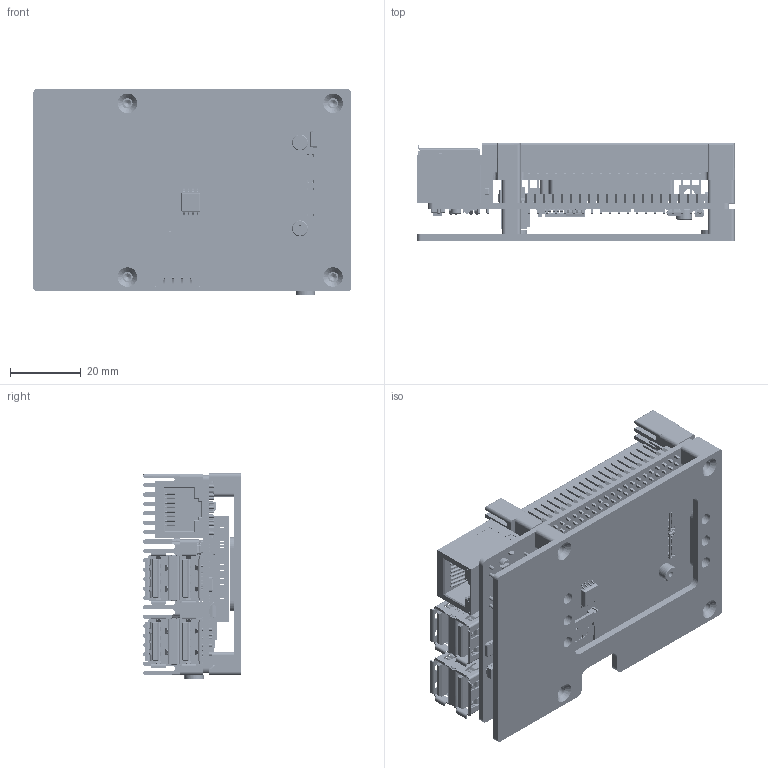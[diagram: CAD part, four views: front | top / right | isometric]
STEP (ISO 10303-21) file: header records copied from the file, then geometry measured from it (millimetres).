
FILE_DESCRIPTION (( 'STEP AP214' ), '1' );
FILE_NAME ('LubanCat 3-俋褲3D恅璃.STEP', '2025-04-15T01:09:14', ( '' ), ( '' ), 'SwSTEP 2.0', 'SolidWorks 2023', '' );
FILE_SCHEMA (( 'AUTOMOTIVE_DESIGN' ));
Length unit declared in the file: millimetre
Products named in the file (35): User Library-USB-TYPE-C20; SMAJ3.3CA; IRM-v838M3 红外贴片; LubanCat 3-外壳3D文件; LubanCat 4-底盖-202306121; FE2.1-CQFP48A; HR911130A; RK3576; Lubancat3板图; 创都1.25T-2A; FPC连接器 针脚数30 间距0.5mm 高度2.0mm 下接 卧贴 翻盖式; USB3.0+2.0卷边座子 零件; MINI_HDMI; SMAJ5.0CA; 0402 3.3uH; 长鑫DRAM; 兼容鲁班猫1,3,4挤铝散热器-20250206; FPC连接器24P 0.5mm立贴; M2x3 台阶外径4.5整体4.5焊接外径3; TLJB227M006R0500; 0402 0.22uH; ZH 2P 插件1.5MM; 0.4mm BTB母座2x15P 双槽 立贴式; 2.54排针3PIN; RK806S-5; TS-1088-AR02016; 2.54mm 2x20P 直插 方针; MINI PCIE插座 引脚数：52P; 0805 47uF; 耳机座子; W25Q64JVSSIQ; eMMC-32G; MICRO SIM+TF卡座二合一; USB2.0双层卷边 零件; Type-C母座 24P USB-3.1
Assembly tree (41 placements, depth 2):
  LubanCat 3-外壳3D文件
    Lubancat3板图
    长鑫DRAM
    eMMC-32G
    FE2.1-CQFP48A
    RK806S-5
    USB2.0双层卷边 零件
    USB3.0+2.0卷边座子 零件
    HR911130A
    2.54mm 2x20P 直插 方针
    User Library-USB-TYPE-C20
    MINI_HDMI
    Type-C母座 24P USB-3.1
    耳机座子
    FPC连接器24P 0.5mm立贴
    ZH 2P 插件1.5MM
    创都1.25T-2A
    IRM-v838M3 红外贴片
    FPC连接器 针脚数30 间距0.5mm 高度2.0mm 下接 卧贴 翻盖式
    RK3576
    TS-1088-AR02016  x3
    0402 0.22uH
    2.54排针3PIN
    0.4mm BTB母座2x15P 双槽 立贴式  x5
    兼容鲁班猫1,3,4挤铝散热器-20250206
    0805 47uF
    LubanCat 4-底盖-202306121
    MINI PCIE插座 引脚数：52P
    MICRO SIM+TF卡座二合一
    M2x3 台阶外径4.5整体4.5焊接外径3  x2
    W25Q64JVSSIQ
    SMAJ5.0CA
    SMAJ3.3CA
    TLJB227M006R0500
    0402 3.3uH
Bounding box: 89.47 x 27.6 x 58.03 mm (x, y, z)
Volume: 45141.4 mm3; surface area: 62503.1 mm2
Topology: 341 solids, 417 shells, 22913 faces, 64201 edges, 40937 vertices
Faces by surface type: plane 15364, cylinder 4470, bspline 2966, cone 89, sphere 19, torus 5
Entity records: 668646 total; most frequent: CARTESIAN_POINT 208013, ORIENTED_EDGE 100961, DIRECTION 83538, EDGE_CURVE 51009, LINE 36008, VECTOR 36008, VERTEX_POINT 33447, AXIS2_PLACEMENT_3D 23765
